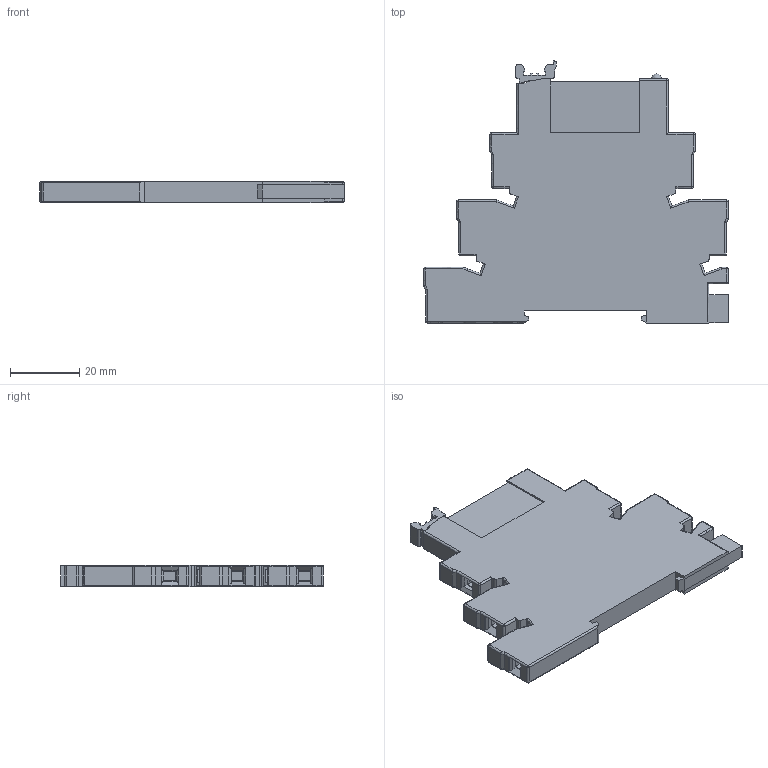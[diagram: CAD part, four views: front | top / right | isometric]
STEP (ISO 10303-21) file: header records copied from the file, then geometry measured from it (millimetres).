
FILE_DESCRIPTION(('STEP AP214'),'2;1');
FILE_NAME('3851_05-2020.stp','2020-05-21T08:13:00',(''),(''),'2007.1.106','THINKDESIGN','');
FILE_SCHEMA(('AUTOMOTIVE_DESIGN'));
Length unit declared in the file: millimetre
Products named in the file (1): top
Bounding box: 87.85 x 75.58 x 6.2 mm (x, y, z)
Surface area: 13971.8 mm2 (no closed solid volume)
Topology: 0 solids, 0 shells, 582 faces, 2976 edges, 2948 vertices
Faces by surface type: bspline 582
Entity records: 18488 total; most frequent: CARTESIAN_POINT 10850, COMPOSITE_CURVE_SEGMENT 2950, QUASI_UNIFORM_CURVE 2086, OUTER_BOUNDARY_CURVE 582, CURVE_BOUNDED_SURFACE 582, STYLED_ITEM 582, B_SPLINE_SURFACE_WITH_KNOTS 385, B_SPLINE_CURVE_WITH_KNOTS 382
